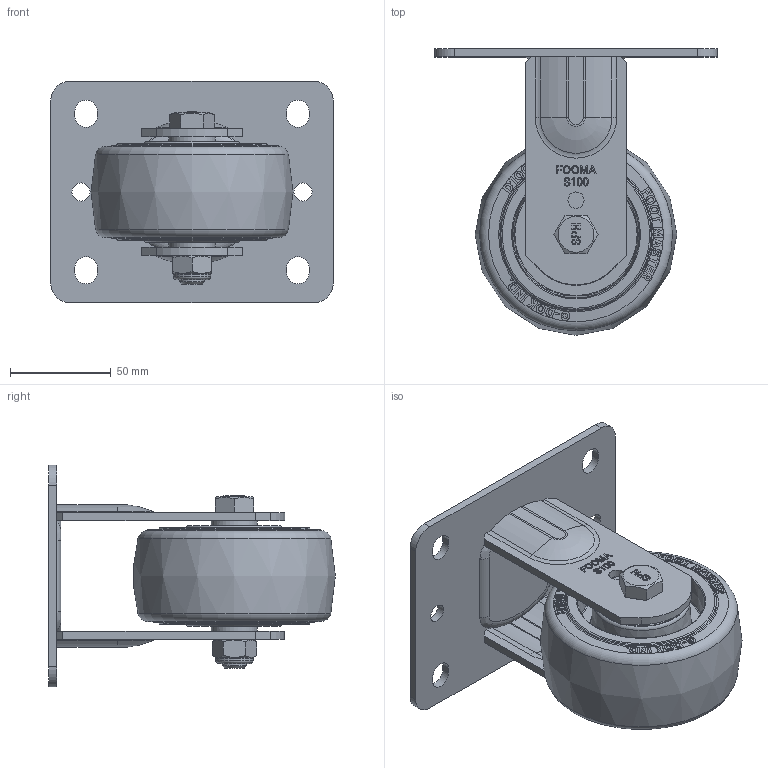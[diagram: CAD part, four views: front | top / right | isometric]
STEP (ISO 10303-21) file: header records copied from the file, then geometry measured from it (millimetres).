
FILE_DESCRIPTION(/* description */ (''),/* implementation_level */ '2;1');
FILE_NAME(/* name */ 'C:\Users\admin\Desktop\업무폴더\일자별 업무\2026\05월\05.15\변환\SPH-100-ARF-TUD&HRD-PEU.ipt.stp',/* time_stamp */ '2026-05-15T13:16:14+09:00',/* author */ ('admin'),/* organization */ ('지덕산업'),/* preprocessor_version */ 'ST-DEVELOPER v18.1',/* originating_system */ 'Autodesk Inventor 2021',/* authorisation */ '');
FILE_SCHEMA (('CONFIG_CONTROL_DESIGN'));
Length unit declared in the file: millimetre
Products named in the file (1): SPH-100-ARF-TUD&HRD-PEU
Bounding box: 140 x 142 x 110 mm (x, y, z)
Volume: 432591.9 mm3; surface area: 92886.6 mm2
Topology: 1 solids, 1 shells, 1033 faces, 2763 edges, 1831 vertices
Faces by surface type: plane 486, bspline 397, cone 59, cylinder 55, torus 32, sphere 4
Full cylindrical faces by diameter (mm): 8 x2, 9 x2, 12 x1, 18 x1, 18.5 x1, 46.001 x2
Entity records: 35789 total; most frequent: CARTESIAN_POINT 13631, ORIENTED_EDGE 5526, DIRECTION 3077, EDGE_CURVE 2763, VERTEX_POINT 1831, LINE 1335, VECTOR 1335, EDGE_LOOP 1150
